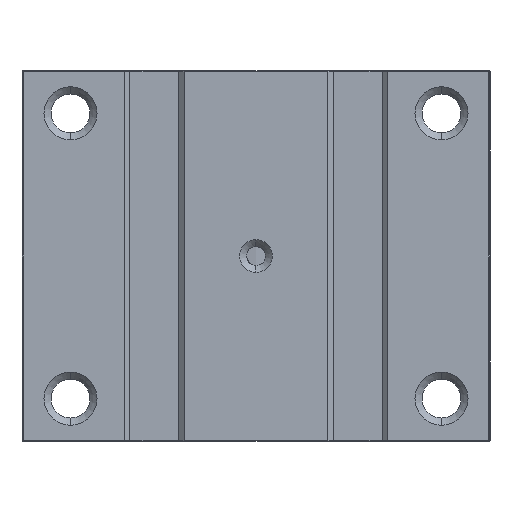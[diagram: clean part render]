
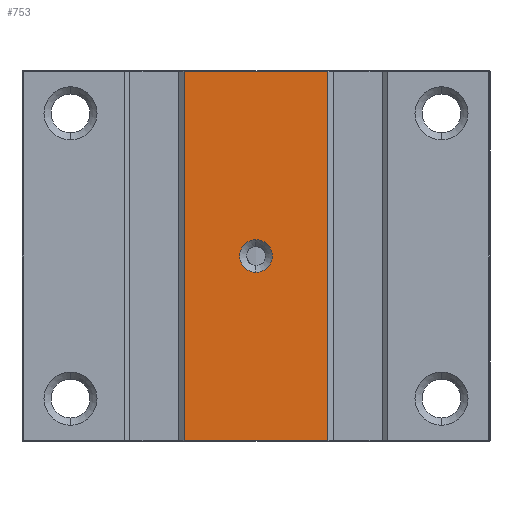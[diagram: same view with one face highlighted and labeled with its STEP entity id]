
A CAD part, front view. The second image highlights one B-rep face of the part: STEP entity #753.
In plain terms, the highlighted planar face has unit normal (0, -1, 0).
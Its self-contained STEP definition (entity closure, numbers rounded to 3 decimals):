
#52 = ORIENTED_EDGE ( 'NONE', *, *, #14953, .T. ) ;
#417 = CARTESIAN_POINT ( 'NONE',  ( -12.6, -20.5, 64.8 ) ) ;
#462 = CARTESIAN_POINT ( 'NONE',  ( -12.6, -20.5, 0.2 ) ) ;
#493 = CARTESIAN_POINT ( 'NONE',  ( 0., -20.5, 32.5 ) ) ;
#572 = VECTOR ( 'NONE', #12463, 1000. ) ;
#753 = ADVANCED_FACE ( 'NONE', ( #15094, #8107 ), #12910, .F. ) ;
#920 = ORIENTED_EDGE ( 'NONE', *, *, #11965, .F. ) ;
#1132 = VERTEX_POINT ( 'NONE', #13140 ) ;
#1358 = CARTESIAN_POINT ( 'NONE',  ( 12.6, -20.5, 64.8 ) ) ;
#1650 = VECTOR ( 'NONE', #5733, 1000. ) ;
#1881 = DIRECTION ( 'NONE',  ( 0., 0., -1. ) ) ;
#2736 = VERTEX_POINT ( 'NONE', #1358 ) ;
#3520 = CIRCLE ( 'NONE', #12352, 2.85 ) ;
#3599 = CARTESIAN_POINT ( 'NONE',  ( -41., -20.5, 0.2 ) ) ;
#4815 = ORIENTED_EDGE ( 'NONE', *, *, #14215, .T. ) ;
#4955 = CARTESIAN_POINT ( 'NONE',  ( 0., -20.5, 29.65 ) ) ;
#4965 = DIRECTION ( 'NONE',  ( 1., 0., 0. ) ) ;
#5185 = AXIS2_PLACEMENT_3D ( 'NONE', #5889, #14309, #5947 ) ;
#5344 = CARTESIAN_POINT ( 'NONE',  ( 0., -20.5, 32.5 ) ) ;
#5380 = VERTEX_POINT ( 'NONE', #417 ) ;
#5733 = DIRECTION ( 'NONE',  ( 0., 0., 1. ) ) ;
#5889 = CARTESIAN_POINT ( 'NONE',  ( -41., -20.5, 65. ) ) ;
#5947 = DIRECTION ( 'NONE',  ( 0., 0., 1. ) ) ;
#6143 = ORIENTED_EDGE ( 'NONE', *, *, #12798, .F. ) ;
#6737 = DIRECTION ( 'NONE',  ( 0., 0., -1. ) ) ;
#6875 = ORIENTED_EDGE ( 'NONE', *, *, #15054, .T. ) ;
#6908 = LINE ( 'NONE', #3599, #10161 ) ;
#7583 = DIRECTION ( 'NONE',  ( 0., 0., 1. ) ) ;
#7885 = ORIENTED_EDGE ( 'NONE', *, *, #16309, .F. ) ;
#8107 = FACE_OUTER_BOUND ( 'NONE', #15023, .T. ) ;
#8570 = VERTEX_POINT ( 'NONE', #14041 ) ;
#8941 = CARTESIAN_POINT ( 'NONE',  ( -12.6, -20.5, 0. ) ) ;
#9204 = VERTEX_POINT ( 'NONE', #4955 ) ;
#9655 = AXIS2_PLACEMENT_3D ( 'NONE', #5344, #15106, #6737 ) ;
#9656 = CARTESIAN_POINT ( 'NONE',  ( -12.6, -20.5, 64.8 ) ) ;
#10160 = VERTEX_POINT ( 'NONE', #462 ) ;
#10161 = VECTOR ( 'NONE', #4965, 1000. ) ;
#10189 = DIRECTION ( 'NONE',  ( 0., -1., 0. ) ) ;
#11098 = EDGE_LOOP ( 'NONE', ( #920, #7885 ) ) ;
#11417 = CIRCLE ( 'NONE', #9655, 2.85 ) ;
#11791 = LINE ( 'NONE', #8941, #15075 ) ;
#11965 = EDGE_CURVE ( 'NONE', #9204, #8570, #11417, .T. ) ;
#12352 = AXIS2_PLACEMENT_3D ( 'NONE', #493, #10189, #1881 ) ;
#12463 = DIRECTION ( 'NONE',  ( -1., 0., 0. ) ) ;
#12798 = EDGE_CURVE ( 'NONE', #10160, #5380, #11791, .T. ) ;
#12910 = PLANE ( 'NONE',  #5185 ) ;
#13140 = CARTESIAN_POINT ( 'NONE',  ( 12.6, -20.5, 0.2 ) ) ;
#14041 = CARTESIAN_POINT ( 'NONE',  ( 0., -20.5, 35.35 ) ) ;
#14099 = CARTESIAN_POINT ( 'NONE',  ( 12.6, -20.5, 0. ) ) ;
#14215 = EDGE_CURVE ( 'NONE', #10160, #1132, #6908, .T. ) ;
#14309 = DIRECTION ( 'NONE',  ( 0., 1., 0. ) ) ;
#14942 = LINE ( 'NONE', #9656, #572 ) ;
#14953 = EDGE_CURVE ( 'NONE', #2736, #5380, #14942, .T. ) ;
#15023 = EDGE_LOOP ( 'NONE', ( #6143, #4815, #6875, #52 ) ) ;
#15054 = EDGE_CURVE ( 'NONE', #1132, #2736, #15587, .T. ) ;
#15075 = VECTOR ( 'NONE', #7583, 1000. ) ;
#15094 = FACE_BOUND ( 'NONE', #11098, .T. ) ;
#15106 = DIRECTION ( 'NONE',  ( 0., -1., 0. ) ) ;
#15587 = LINE ( 'NONE', #14099, #1650 ) ;
#16309 = EDGE_CURVE ( 'NONE', #8570, #9204, #3520, .T. ) ;
